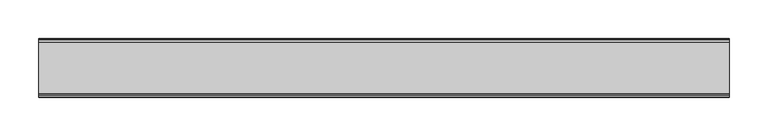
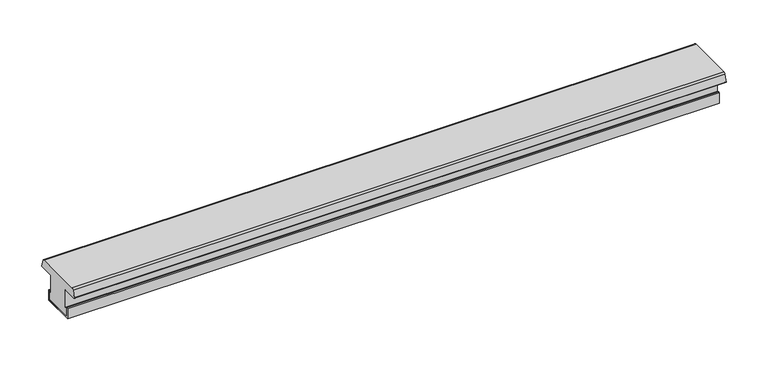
"""IFC4 building model written with IfcOpenShell, lengths in millimetres: proxy geometry, Weiku - Montante - Divisor 02.2.01.040 : Weiku - Montante - Divisor 02.2.01.040."""

from ifc_helpers import new_model, si_unit, point, frame, frame_2d, origin, place, context, project, spatial, polyline, circle_curve, trimmed, segment, composite_curve, outline, extrude, source, transform, mapped, element, save


def generic_models_eeaadb25(model_context):
    return source(origin(), model_context, "Body", "SweptSolid", [
        extrude(outline(polyline([(20.5, 0.0), (20.5, 12.972419), (22.5, 12.972419), (22.5, -2.0), (-22.5, -2.0), (-22.5, 12.972419), (-20.5, 12.972419), (-20.5, 0.0), (20.5, 0.0)])), frame((-448.5, 0.0, 0.0), z_axis=(1.0, 0.0, 0.0), x_axis=(0.0, 1.0, 0.0)), (0.0, 0.0, 1.0), 897.0),
        extrude(outline(composite_curve([segment(polyline([(-33.0007245, 50.0), (33.0007245, 50.0)]), True, "CONTINUOUS"), segment(trimmed(circle_curve(frame_2d((33.0007245, 47.0)), 3.0), [point((33.0007245, 50.0))], [point((35.898502, 47.7764571))], False, "CARTESIAN"), True, "CONTINUOUS"), segment(polyline([(35.898502, 47.7764571), (38.4496907, 38.2552914)]), True, "CONTINUOUS"), segment(trimmed(circle_curve(frame_2d((37.8701352, 38.1)), 0.6), [point((38.4496907, 38.2552914))], [point((37.8701352, 37.5))], False, "CARTESIAN"), True, "CONTINUOUS"), segment(polyline([(37.8701352, 37.5), (17.5004577, 37.5), (17.5004577, 12.168694), (20.5, 12.972419), (20.5, 0.0), (-20.5, 0.0), (-20.5, 12.972419), (-17.5004577, 12.168694), (-17.5004577, 37.5), (-37.8701352, 37.5)]), True, "CONTINUOUS"), segment(trimmed(circle_curve(frame_2d((-37.8701352, 38.1)), 0.6), [point((-37.8701352, 37.5))], [point((-38.4496907, 38.2552914))], False, "CARTESIAN"), True, "CONTINUOUS"), segment(polyline([(-38.4496907, 38.2552914), (-35.898502, 47.7764571)]), True, "CONTINUOUS"), segment(trimmed(circle_curve(frame_2d((-33.0007245, 47.0)), 3.0), [point((-35.898502, 47.7764571))], [point((-33.0007245, 50.0))], False, "CARTESIAN"), True, "CONTINUOUS")], self_intersect=False)), frame((-448.5, 0.0, 0.0), z_axis=(1.0, 0.0, 0.0), x_axis=(0.0, 1.0, 0.0)), (0.0, 0.0, 1.0), 897.0),
    ])


if __name__ == "__main__":
    model = new_model("IFC4")
    model_context = context("Model", 3, world=origin())
    ifc_project = project(units=[si_unit("LENGTHUNIT", "METRE", prefix="MILLI")], contexts=[model_context])
    site = spatial("IfcSite", under=ifc_project)
    building = spatial("IfcBuilding", under=site)
    placement = place(None, origin())
    generic_models_shape = generic_models_eeaadb25(model_context)
    element("IfcBuildingElementProxy", 1, Name="Weiku - Montante - Divisor 02.2.01.040 : Weiku - Montante - Divisor 02.2.01.040", ObjectType="Weiku - Montante - Divisor 02.2.01.040 : Weiku - Montante - Divisor 02.2.01.040", at=placement, inside=building, context=model_context, shape_type="MappedRepresentation", body=[
        mapped(generic_models_shape, transform((0.0, 0.0, 0.0), x_axis=(1.0, 0.0, 0.0), y_axis=(0.0, 1.0, 0.0), z_axis=(0.0, 0.0, 1.0))),
    ])
    save(model, "model.ifc")
